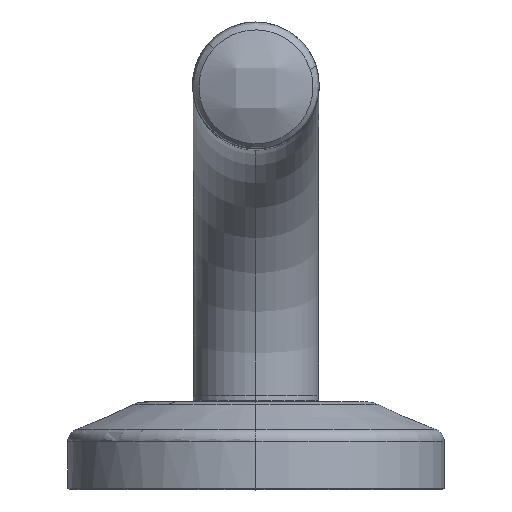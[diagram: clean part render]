
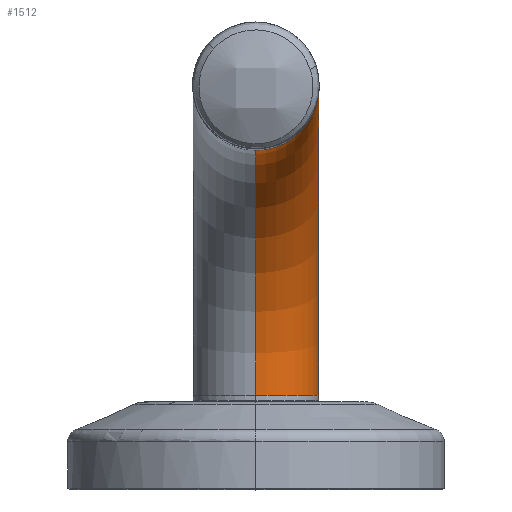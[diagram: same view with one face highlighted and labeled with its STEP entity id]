
A CAD part, top view. The second image highlights one B-rep face of the part: STEP entity #1512.
In plain terms, the highlighted toroidal (fillet/blend) face has major radius 49 mm and minor radius 10 mm.
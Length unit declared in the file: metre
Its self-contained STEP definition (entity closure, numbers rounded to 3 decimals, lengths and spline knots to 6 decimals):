
#310=EDGE_CURVE('',#311,#314,#316,.T.);
#311=VERTEX_POINT('',#312);
#312=CARTESIAN_POINT('',(-0.0,0.04,0.049));
#313=CARTESIAN_POINT('',(-0.0,0.04,0.049));
#314=VERTEX_POINT('',#315);
#315=CARTESIAN_POINT('',(0.01,0.05,0.049));
#316=(B_SPLINE_CURVE(3,(#313,#317,#318,#319),.UNSPECIFIED.,.F.,.U.)B_SPLINE_CURVE_WITH_KNOTS(
  (4,4),(0.0,1.0),.UNSPECIFIED.)BOUNDED_CURVE()CURVE()GEOMETRIC_REPRESENTATION_ITEM(
  )RATIONAL_B_SPLINE_CURVE((1.0,0.805,0.805,1.0)
  )REPRESENTATION_ITEM(''));
#317=CARTESIAN_POINT('',(0.005858,0.04,0.049));
#318=CARTESIAN_POINT('',(0.01,0.044142,0.049));
#319=CARTESIAN_POINT('',(0.01,0.05,0.049));
#337=CIRCLE('',#338,0.01);
#338=AXIS2_PLACEMENT_3D('',#339,#340,#341);
#339=CARTESIAN_POINT('',(0.0,0.05,0.049));
#340=DIRECTION('',(0.0,0.,1.0));
#341=DIRECTION('',(1.0,0.0,0.0));
#343=TOROIDAL_SURFACE('',#344,0.049,0.01);
#344=AXIS2_PLACEMENT_3D('',#345,#346,#347);
#345=CARTESIAN_POINT('',(0.0,0.001,0.049));
#346=DIRECTION('',(1.0,0.0,0.0));
#347=DIRECTION('',(0.0,0.0,-1.0));
#352=VERTEX_POINT('',#353);
#353=CARTESIAN_POINT('',(0.0,0.001,-0.01));
#354=VERTEX_POINT('',#355);
#355=CARTESIAN_POINT('',(0.0,0.001,0.01));
#362=EDGE_CURVE('',#354,#311,#363,.T.);
#363=CIRCLE('',#364,0.039);
#364=AXIS2_PLACEMENT_3D('',#365,#366,#367);
#365=CARTESIAN_POINT('',(-0.0,0.001,0.049));
#366=DIRECTION('',(1.0,0.0,0.0));
#367=DIRECTION('',(0.0,0.0,-1.0));
#371=VERTEX_POINT('',#372);
#372=CARTESIAN_POINT('',(0.0,0.06,0.049));
#374=EDGE_CURVE('',#352,#371,#375,.T.);
#375=CIRCLE('',#376,0.059);
#376=AXIS2_PLACEMENT_3D('',#377,#378,#379);
#377=CARTESIAN_POINT('',(0.0,0.001,0.049));
#378=DIRECTION('',(1.0,0.0,0.0));
#379=DIRECTION('',(0.0,0.0,-1.0));
#1504=CARTESIAN_POINT('',(-0.0,0.001,0.01));
#1505=EDGE_CURVE('',#354,#352,#1506,.T.);
#1506=(B_SPLINE_CURVE(3,(#1504,#1507,#1508,#1509),.UNSPECIFIED.,.F.,.U.)B_SPLINE_CURVE_WITH_KNOTS(
  (4,4),(0.0,1.0),.UNSPECIFIED.)BOUNDED_CURVE()CURVE()GEOMETRIC_REPRESENTATION_ITEM(
  )RATIONAL_B_SPLINE_CURVE((1.0,0.333,0.333,1.0)
  )REPRESENTATION_ITEM(''));
#1507=CARTESIAN_POINT('',(0.02,0.001,0.01));
#1508=CARTESIAN_POINT('',(0.02,0.001,-0.01));
#1509=CARTESIAN_POINT('',(0.0,0.001,-0.01));
#1510=FACE_OUTER_BOUND('',#1513,.T.);
#1512=ADVANCED_FACE('',(#1510),#343,.T.);
#1513=EDGE_LOOP('',(#1514,#1515,#1516,#1517,#1519));
#1514=ORIENTED_EDGE('',*,*,#362,.F.);
#1515=ORIENTED_EDGE('',*,*,#1505,.T.);
#1516=ORIENTED_EDGE('',*,*,#374,.T.);
#1517=ORIENTED_EDGE('',*,*,#1518,.F.);
#1518=EDGE_CURVE('',#314,#371,#337,.T.);
#1519=ORIENTED_EDGE('',*,*,#310,.F.);
